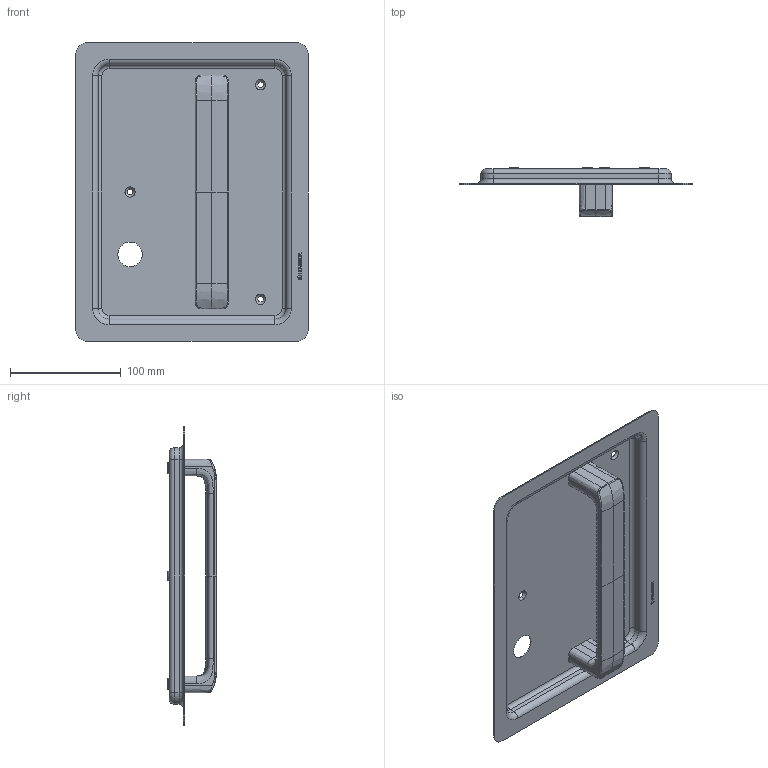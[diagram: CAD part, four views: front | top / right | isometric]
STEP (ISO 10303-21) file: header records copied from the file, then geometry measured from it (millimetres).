
FILE_DESCRIPTION(/* description */ (''),/* implementation_level */ '2;1');
FILE_NAME(/* name */ 'C:\ADSK_DMS_WS\Designs\Vorschläge\Loc Schalen\Heusser Muschel\Heusser-Muschel mit D6\S6.13.D6.278R..stp',/* time_stamp */ '2025-04-10T13:40:25+02:00',/* author */ ('gm'),/* organization */ (''),/* preprocessor_version */ 'ST-DEVELOPER v17.2',/* originating_system */ 'Autodesk Inventor 2019',/* authorisation */ '');
FILE_SCHEMA (('AUTOMOTIVE_DESIGN { 1 0 10303 214 3 1 1 }'));
Length unit declared in the file: millimetre
Products named in the file (4): S6.13.D6.278R.; Schale S6.13.R.D6ipt; D6; M5x10 zu D6
Assembly tree (6 placements, depth 2):
  S6.13.D6.278R.
    Schale S6.13.R.D6ipt
    D6
    M5x10 zu D6  x4
Bounding box: 210 x 44.5 x 270 mm (x, y, z)
Volume: 145527.3 mm3; surface area: 150577.7 mm2
Topology: 6 solids, 6 shells, 386 faces, 989 edges, 634 vertices
Faces by surface type: plane 125, bspline 98, cylinder 93, cone 50, torus 20
Full cylindrical faces by diameter (mm): 4.134 x4, 5 x4, 5.5 x4, 9 x4, 22.2 x1
Entity records: 13533 total; most frequent: CARTESIAN_POINT 6456, ORIENTED_EDGE 1554, DIRECTION 1168, EDGE_CURVE 777, VERTEX_POINT 499, LINE 418, VECTOR 418, AXIS2_PLACEMENT_3D 375
